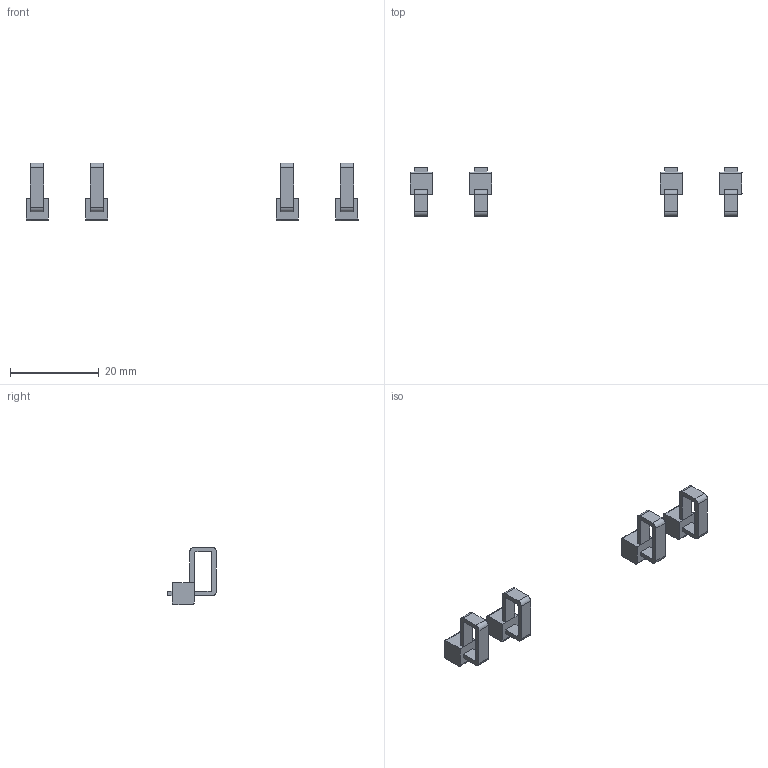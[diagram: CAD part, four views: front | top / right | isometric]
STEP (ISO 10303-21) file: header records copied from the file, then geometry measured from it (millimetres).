
FILE_DESCRIPTION(/* description */ (''),/* implementation_level */ '2;1');
FILE_NAME(/* name */ '8.x-drive#8.6#la-zip',/* time_stamp */ '2014-12-01T20:18:18+01:00',/* author */ (''),/* organization */ (''),/* preprocessor_version */ 'ST-DEVELOPER v14',/* originating_system */ '',/* authorisation */ '');
FILE_SCHEMA (('AUTOMOTIVE_DESIGN'));
Length unit declared in the file: millimetre
Products named in the file (1): Document
Bounding box: 75 x 11 x 13 mm (x, y, z)
Volume: 827.5 mm3; surface area: 1434.9 mm2
Topology: 4 solids, 4 shells, 120 faces, 328 edges, 216 vertices
Faces by surface type: bspline 96, plane 24
Entity records: 7005 total; most frequent: CARTESIAN_POINT 3194, ORIENTED_EDGE 656, PCURVE 656, DEFINITIONAL_REPRESENTATION 656, B_SPLINE_CURVE_WITH_KNOTS 456, SURFACE_CURVE 328, EDGE_CURVE 328, VERTEX_POINT 216
